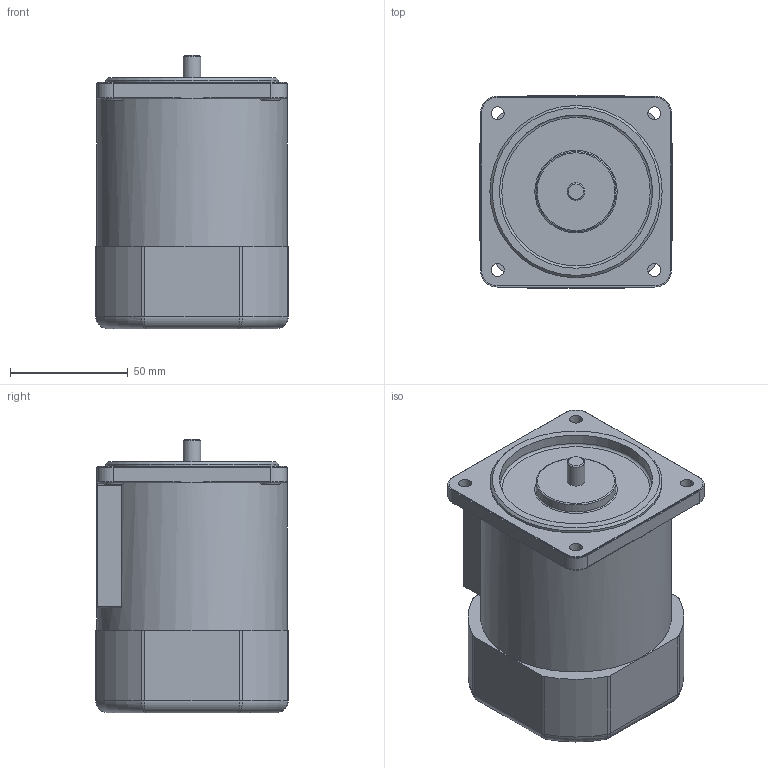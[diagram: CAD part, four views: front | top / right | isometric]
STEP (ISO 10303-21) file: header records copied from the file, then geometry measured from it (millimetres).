
FILE_DESCRIPTION (( 'STEP AP203' ), '1' );
FILE_NAME ('8IDG¤±-40FG.STEP', '2022-09-20T02:30:07', ( '' ), ( '' ), 'SwSTEP 2.0', 'SolidWorks 2018', '' );
FILE_SCHEMA (( 'CONFIG_CONTROL_DESIGN' ));
Length unit declared in the file: millimetre
Products named in the file (2): 8IDG､ｱ-40FG
Bounding box: 81.6 x 81.6 x 116 mm (x, y, z)
Volume: 581626.4 mm3; surface area: 45203.2 mm2
Topology: 1 solids, 1 shells, 118 faces, 283 edges, 159 vertices
Faces by surface type: cylinder 49, plane 32, torus 17, bspline 16, cone 2, sphere 2
Full cylindrical faces by diameter (mm): 5.5 x4, 7.49 x1, 34 x1, 65 x1, 73.1 x1, 81 x1
Entity records: 4213 total; most frequent: CARTESIAN_POINT 1560, DIRECTION 542, ORIENTED_EDGE 480, EDGE_CURVE 240, AXIS2_PLACEMENT_3D 226, EDGE_LOOP 154, VERTEX_POINT 152, FACE_OUTER_BOUND 134
